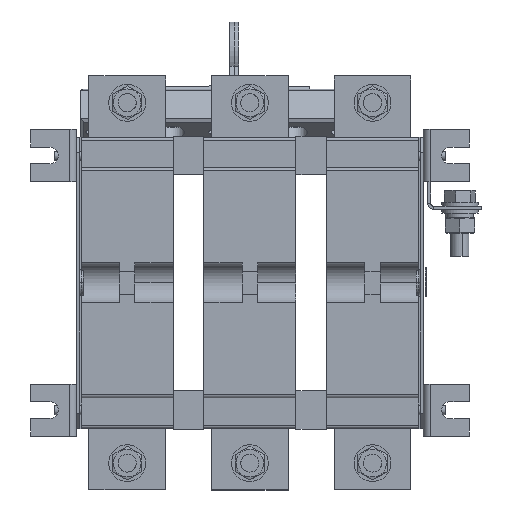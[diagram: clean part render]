
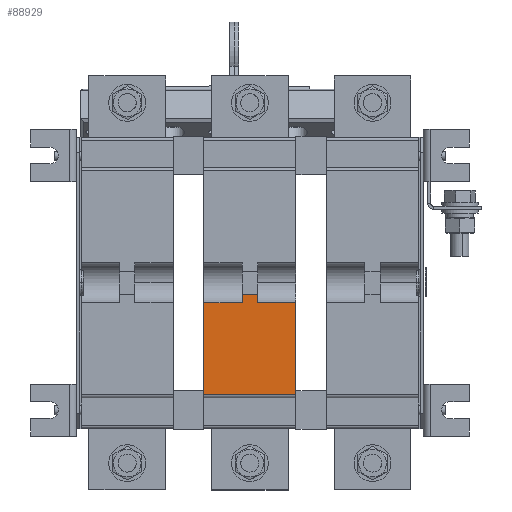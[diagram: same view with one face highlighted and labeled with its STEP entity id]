
A CAD part, top view. The second image highlights one B-rep face of the part: STEP entity #88929.
In plain terms, the highlighted planar face has unit normal (0, 0, 1).
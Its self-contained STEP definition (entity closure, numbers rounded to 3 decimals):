
#1225 = VECTOR ( 'NONE', #89643, 1000. ) ;
#2144 = EDGE_CURVE ( 'NONE', #92386, #4010, #76143, .T. ) ;
#2404 = CARTESIAN_POINT ( 'NONE',  ( 30., 95., 23. ) ) ;
#4010 = VERTEX_POINT ( 'NONE', #38526 ) ;
#6632 = CARTESIAN_POINT ( 'NONE',  ( 5., -13., 23. ) ) ;
#7375 = EDGE_LOOP ( 'NONE', ( #68809, #13191, #36920, #68359, #83997, #30405, #69530, #20867 ) ) ;
#7501 = VECTOR ( 'NONE', #79934, 1000. ) ;
#8010 = EDGE_CURVE ( 'NONE', #65479, #76278, #35498, .T. ) ;
#8752 = LINE ( 'NONE', #25955, #33327 ) ;
#8832 = LINE ( 'NONE', #42938, #82455 ) ;
#9292 = DIRECTION ( 'NONE',  ( 0., 0., 1. ) ) ;
#9332 = VECTOR ( 'NONE', #90920, 1000. ) ;
#9845 = LINE ( 'NONE', #14361, #58917 ) ;
#13191 = ORIENTED_EDGE ( 'NONE', *, *, #50947, .T. ) ;
#13696 = DIRECTION ( 'NONE',  ( 1., 0., 0. ) ) ;
#13772 = AXIS2_PLACEMENT_3D ( 'NONE', #2404, #9292, #44889 ) ;
#14361 = CARTESIAN_POINT ( 'NONE',  ( 35., -7.5, 23. ) ) ;
#14584 = EDGE_CURVE ( 'NONE', #58522, #81464, #8832, .T. ) ;
#17735 = EDGE_CURVE ( 'NONE', #81464, #76278, #8752, .T. ) ;
#17796 = CARTESIAN_POINT ( 'NONE',  ( 30., -73., 23. ) ) ;
#20867 = ORIENTED_EDGE ( 'NONE', *, *, #17735, .T. ) ;
#25955 = CARTESIAN_POINT ( 'NONE',  ( 30., -95., 23. ) ) ;
#30405 = ORIENTED_EDGE ( 'NONE', *, *, #77159, .T. ) ;
#32509 = LINE ( 'NONE', #75053, #1225 ) ;
#33327 = VECTOR ( 'NONE', #49271, 1000. ) ;
#34032 = CARTESIAN_POINT ( 'NONE',  ( 5., -13., 23. ) ) ;
#35498 = LINE ( 'NONE', #34032, #90060 ) ;
#36920 = ORIENTED_EDGE ( 'NONE', *, *, #47589, .T. ) ;
#38526 = CARTESIAN_POINT ( 'NONE',  ( -5., -7.5, 23. ) ) ;
#39935 = LINE ( 'NONE', #72462, #7501 ) ;
#41146 = CARTESIAN_POINT ( 'NONE',  ( -5., -13., 23. ) ) ;
#42938 = CARTESIAN_POINT ( 'NONE',  ( 30., -73., 23. ) ) ;
#44820 = EDGE_CURVE ( 'NONE', #92386, #59490, #32509, .T. ) ;
#44889 = DIRECTION ( 'NONE',  ( 1., 0., 0. ) ) ;
#47589 = EDGE_CURVE ( 'NONE', #63262, #4010, #9845, .T. ) ;
#49271 = DIRECTION ( 'NONE',  ( 0., 1., 0. ) ) ;
#50224 = PLANE ( 'NONE',  #13772 ) ;
#50947 = EDGE_CURVE ( 'NONE', #65479, #63262, #55677, .T. ) ;
#55677 = LINE ( 'NONE', #91413, #84668 ) ;
#55770 = DIRECTION ( 'NONE',  ( -1., 0., 0. ) ) ;
#58522 = VERTEX_POINT ( 'NONE', #67658 ) ;
#58917 = VECTOR ( 'NONE', #55770, 1000. ) ;
#59490 = VERTEX_POINT ( 'NONE', #70611 ) ;
#63262 = VERTEX_POINT ( 'NONE', #77005 ) ;
#65479 = VERTEX_POINT ( 'NONE', #6632 ) ;
#67658 = CARTESIAN_POINT ( 'NONE',  ( -30., -73., 23. ) ) ;
#68359 = ORIENTED_EDGE ( 'NONE', *, *, #2144, .F. ) ;
#68809 = ORIENTED_EDGE ( 'NONE', *, *, #8010, .F. ) ;
#69030 = CARTESIAN_POINT ( 'NONE',  ( -5., -13., 23. ) ) ;
#69530 = ORIENTED_EDGE ( 'NONE', *, *, #14584, .T. ) ;
#70611 = CARTESIAN_POINT ( 'NONE',  ( -30., -13., 23. ) ) ;
#70775 = CARTESIAN_POINT ( 'NONE',  ( 30., -13., 23. ) ) ;
#72462 = CARTESIAN_POINT ( 'NONE',  ( -30., -95., 23. ) ) ;
#75053 = CARTESIAN_POINT ( 'NONE',  ( -5., -13., 23. ) ) ;
#76143 = LINE ( 'NONE', #69030, #9332 ) ;
#76278 = VERTEX_POINT ( 'NONE', #70775 ) ;
#77005 = CARTESIAN_POINT ( 'NONE',  ( 5., -7.5, 23. ) ) ;
#77159 = EDGE_CURVE ( 'NONE', #59490, #58522, #39935, .T. ) ;
#79934 = DIRECTION ( 'NONE',  ( 0., -1., 0. ) ) ;
#80385 = FACE_OUTER_BOUND ( 'NONE', #7375, .T. ) ;
#81464 = VERTEX_POINT ( 'NONE', #17796 ) ;
#82455 = VECTOR ( 'NONE', #85320, 1000. ) ;
#83997 = ORIENTED_EDGE ( 'NONE', *, *, #44820, .T. ) ;
#84668 = VECTOR ( 'NONE', #90446, 1000. ) ;
#85320 = DIRECTION ( 'NONE',  ( 1., 0., 0. ) ) ;
#88929 = ADVANCED_FACE ( 'NONE', ( #80385 ), #50224, .T. ) ;
#89643 = DIRECTION ( 'NONE',  ( -1., 0., 0. ) ) ;
#90060 = VECTOR ( 'NONE', #13696, 1000. ) ;
#90446 = DIRECTION ( 'NONE',  ( 0., 1., 0. ) ) ;
#90920 = DIRECTION ( 'NONE',  ( 0., 1., 0. ) ) ;
#91413 = CARTESIAN_POINT ( 'NONE',  ( 5., 0., 23. ) ) ;
#92386 = VERTEX_POINT ( 'NONE', #41146 ) ;
